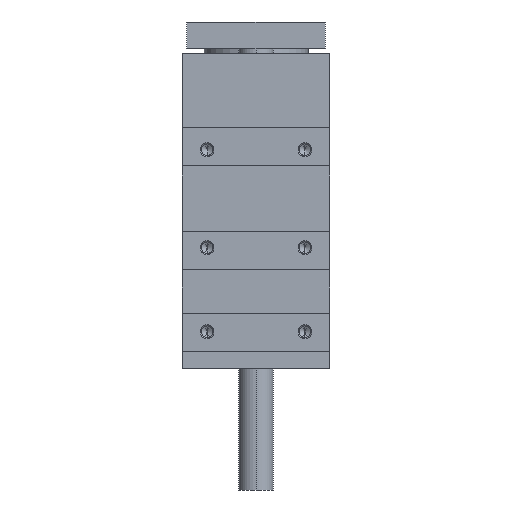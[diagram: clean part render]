
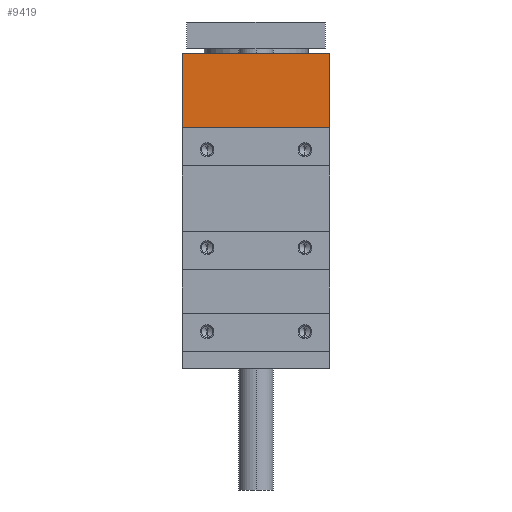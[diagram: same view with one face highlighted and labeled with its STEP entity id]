
A CAD part, left-side view. The second image highlights one B-rep face of the part: STEP entity #9419.
In plain terms, the highlighted planar face has unit normal (-1, 0, 0).
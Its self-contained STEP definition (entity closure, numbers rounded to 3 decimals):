
#236 = CARTESIAN_POINT ( 'NONE',  ( -75.7, 85., 71. ) ) ;
#720 = VECTOR ( 'NONE', #8563, 1000. ) ;
#1150 = VERTEX_POINT ( 'NONE', #1338 ) ;
#1338 = CARTESIAN_POINT ( 'NONE',  ( -75.7, -42.5, 28. ) ) ;
#1346 = PLANE ( 'NONE',  #1603 ) ;
#1603 = AXIS2_PLACEMENT_3D ( 'NONE', #4526, #2940, #7785 ) ;
#1959 = EDGE_CURVE ( 'NONE', #6101, #2999, #8891, .T. ) ;
#1992 = LINE ( 'NONE', #9071, #10218 ) ;
#2940 = DIRECTION ( 'NONE',  ( 1., 0., 0. ) ) ;
#2999 = VERTEX_POINT ( 'NONE', #5975 ) ;
#3572 = CARTESIAN_POINT ( 'NONE',  ( -75.7, 42.5, 0. ) ) ;
#3642 = CARTESIAN_POINT ( 'NONE',  ( -75.7, 42.5, 28. ) ) ;
#4029 = ORIENTED_EDGE ( 'NONE', *, *, #9871, .T. ) ;
#4086 = VECTOR ( 'NONE', #8416, 1000. ) ;
#4526 = CARTESIAN_POINT ( 'NONE',  ( -75.7, 85., 28. ) ) ;
#4617 = CARTESIAN_POINT ( 'NONE',  ( -75.7, -42.5, 0. ) ) ;
#4945 = DIRECTION ( 'NONE',  ( 0., -1., 0. ) ) ;
#4965 = VECTOR ( 'NONE', #4945, 1000. ) ;
#5232 = ORIENTED_EDGE ( 'NONE', *, *, #8209, .F. ) ;
#5934 = EDGE_CURVE ( 'NONE', #6101, #7915, #7631, .T. ) ;
#5975 = CARTESIAN_POINT ( 'NONE',  ( -75.7, -42.5, 71. ) ) ;
#6101 = VERTEX_POINT ( 'NONE', #7886 ) ;
#6111 = ORIENTED_EDGE ( 'NONE', *, *, #1959, .F. ) ;
#6891 = FACE_OUTER_BOUND ( 'NONE', #7838, .T. ) ;
#7631 = LINE ( 'NONE', #3572, #4086 ) ;
#7785 = DIRECTION ( 'NONE',  ( 0., 1., 0. ) ) ;
#7838 = EDGE_LOOP ( 'NONE', ( #8462, #4029, #5232, #6111 ) ) ;
#7886 = CARTESIAN_POINT ( 'NONE',  ( -75.7, 42.5, 71. ) ) ;
#7915 = VERTEX_POINT ( 'NONE', #3642 ) ;
#8209 = EDGE_CURVE ( 'NONE', #2999, #1150, #9566, .T. ) ;
#8384 = DIRECTION ( 'NONE',  ( 0., -1., 0. ) ) ;
#8416 = DIRECTION ( 'NONE',  ( 0., 0., -1. ) ) ;
#8462 = ORIENTED_EDGE ( 'NONE', *, *, #5934, .T. ) ;
#8563 = DIRECTION ( 'NONE',  ( 0., 0., -1. ) ) ;
#8891 = LINE ( 'NONE', #236, #4965 ) ;
#9071 = CARTESIAN_POINT ( 'NONE',  ( -75.7, 85., 28. ) ) ;
#9419 = ADVANCED_FACE ( 'NONE', ( #6891 ), #1346, .F. ) ;
#9566 = LINE ( 'NONE', #4617, #720 ) ;
#9871 = EDGE_CURVE ( 'NONE', #7915, #1150, #1992, .T. ) ;
#10218 = VECTOR ( 'NONE', #8384, 1000. ) ;
